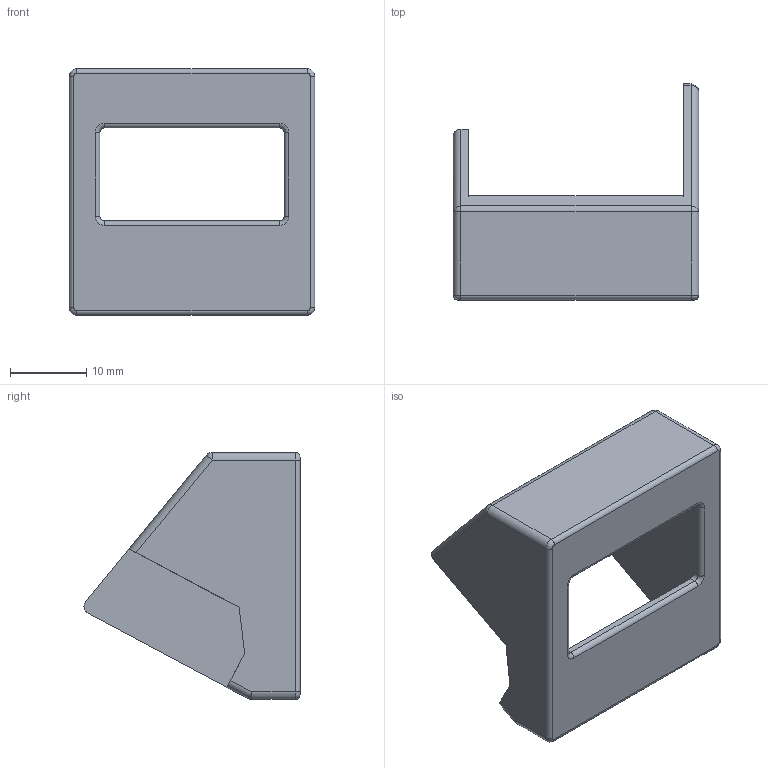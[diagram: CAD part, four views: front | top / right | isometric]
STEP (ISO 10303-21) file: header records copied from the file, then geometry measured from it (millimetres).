
FILE_DESCRIPTION(/* description */ (''),/* implementation_level */ '2;1');
FILE_NAME(/* name */ 'Body-noLogo.step',/* time_stamp */ '2025-11-27T12:28:02+01:00',/* author */ (''),/* organization */ (''),/* preprocessor_version */ 'ST-DEVELOPER v20.1',/* originating_system */ 'Autodesk Translation Framework v14.21.0.0',/* authorisation */ '');
FILE_SCHEMA (('AUTOMOTIVE_DESIGN { 1 0 10303 214 3 1 1 }'));
Length unit declared in the file: millimetre
Products named in the file (1): Body-noLogo
Bounding box: 32.2 x 28.35 x 32.4 mm (x, y, z)
Volume: 4280.1 mm3; surface area: 4766.2 mm2
Topology: 1 solids, 1 shells, 81 faces, 188 edges, 113 vertices
Faces by surface type: plane 36, cylinder 28, sphere 5, cone 4, torus 4, bspline 4
Full cylindrical faces by diameter (mm): 1.8 x4
Entity records: 2327 total; most frequent: CARTESIAN_POINT 415, DIRECTION 412, ORIENTED_EDGE 376, EDGE_CURVE 188, AXIS2_PLACEMENT_3D 146, LINE 120, VECTOR 120, VERTEX_POINT 113
